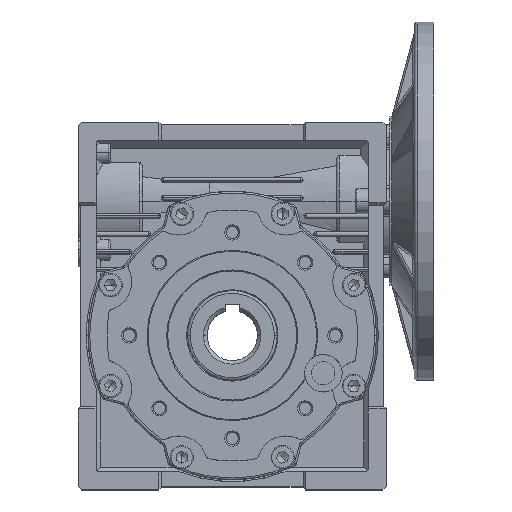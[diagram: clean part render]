
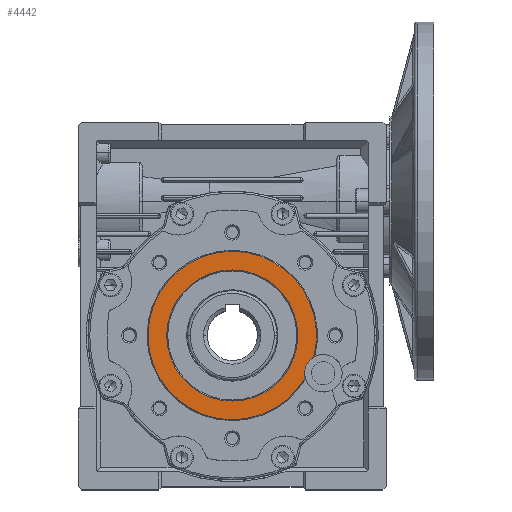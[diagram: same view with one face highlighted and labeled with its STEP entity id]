
A CAD part, top view. The second image highlights one B-rep face of the part: STEP entity #4442.
In plain terms, the highlighted planar face has unit normal (0, 0, 1).
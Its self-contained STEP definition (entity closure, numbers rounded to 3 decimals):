
#4442=ADVANCED_FACE('',(#9550,#9551),#9552,.T.);
#9550=FACE_BOUND('',#16139,.T.);
#9551=FACE_OUTER_BOUND('',#16140,.T.);
#9552=PLANE('',#16141);
#16139=EDGE_LOOP('',(#58976,#58977));
#16140=EDGE_LOOP('',(#58978,#58979,#58980,#58981,#58982));
#16141=AXIS2_PLACEMENT_3D('',#58983,#58984,#58985);
#58976=ORIENTED_EDGE('',*,*,#66455,.T.);
#58977=ORIENTED_EDGE('',*,*,#64924,.T.);
#58978=ORIENTED_EDGE('',*,*,#64828,.T.);
#58979=ORIENTED_EDGE('',*,*,#66590,.T.);
#58980=ORIENTED_EDGE('',*,*,#64932,.T.);
#58981=ORIENTED_EDGE('',*,*,#64937,.T.);
#58982=ORIENTED_EDGE('',*,*,#66449,.T.);
#58983=CARTESIAN_POINT('',(255.66,-38.654,244.658));
#58984=DIRECTION('',(0.0,0.,1.0));
#58985=DIRECTION('',(0.0,1.0,0.));
#64828=EDGE_CURVE('',#71881,#71878,#71882,.T.);
#64924=EDGE_CURVE('',#72057,#72054,#72058,.T.);
#64932=EDGE_CURVE('',#72069,#72067,#72070,.T.);
#64937=EDGE_CURVE('',#72067,#72075,#72078,.T.);
#66449=EDGE_CURVE('',#72075,#71881,#74355,.T.);
#66455=EDGE_CURVE('',#72054,#72057,#74361,.T.);
#66590=EDGE_CURVE('',#71878,#72069,#74549,.T.);
#71878=VERTEX_POINT('',#82614);
#71881=VERTEX_POINT('',#82618);
#71882=CIRCLE('',#82619,10.5);
#72054=VERTEX_POINT('',#83253);
#72057=VERTEX_POINT('',#83257);
#72058=CIRCLE('',#83258,36.577);
#72067=VERTEX_POINT('',#83270);
#72069=VERTEX_POINT('',#83273);
#72070=CIRCLE('',#83274,47.0);
#72075=VERTEX_POINT('',#83282);
#72078=CIRCLE('',#83286,47.0);
#74355=CIRCLE('',#86374,47.0);
#74361=CIRCLE('',#86380,36.577);
#74549=CIRCLE('',#86871,10.5);
#82614=CARTESIAN_POINT('',(296.772,-55.683,244.658));
#82618=CARTESIAN_POINT('',(296.293,-62.274,244.658));
#82619=AXIS2_PLACEMENT_3D('',#97389,#97390,#97391);
#83253=CARTESIAN_POINT('',(292.237,-38.654,244.658));
#83257=CARTESIAN_POINT('',(219.082,-38.654,244.658));
#83258=AXIS2_PLACEMENT_3D('',#97521,#97522,#97523);
#83270=CARTESIAN_POINT('',(255.66,8.346,244.658));
#83273=CARTESIAN_POINT('',(301.094,-50.684,244.658));
#83274=AXIS2_PLACEMENT_3D('',#97531,#97532,#97533);
#83282=CARTESIAN_POINT('',(255.66,-85.654,244.658));
#83286=AXIS2_PLACEMENT_3D('',#97538,#97539,#97540);
#86374=AXIS2_PLACEMENT_3D('',#99995,#99996,#99997);
#86380=AXIS2_PLACEMENT_3D('',#100007,#100008,#100009);
#86871=AXIS2_PLACEMENT_3D('',#100213,#100214,#100215);
#97389=CARTESIAN_POINT('',(306.473,-59.701,244.658));
#97390=DIRECTION('',(0.0,0.0,-1.0));
#97391=DIRECTION('',(-0.924,0.383,0.0));
#97521=CARTESIAN_POINT('',(255.66,-38.654,244.658));
#97522=DIRECTION('',(0.0,0.,-1.0));
#97523=DIRECTION('',(0.0,-1.0,0.));
#97531=CARTESIAN_POINT('',(255.66,-38.654,244.658));
#97532=DIRECTION('',(0.0,0.,1.0));
#97533=DIRECTION('',(0.0,1.0,0.));
#97538=CARTESIAN_POINT('',(255.66,-38.654,244.658));
#97539=DIRECTION('',(0.0,0.,1.0));
#97540=DIRECTION('',(0.0,1.0,0.));
#99995=CARTESIAN_POINT('',(255.66,-38.654,244.658));
#99996=DIRECTION('',(0.0,0.,1.0));
#99997=DIRECTION('',(0.0,1.0,0.));
#100007=CARTESIAN_POINT('',(255.66,-38.654,244.658));
#100008=DIRECTION('',(0.0,0.,-1.0));
#100009=DIRECTION('',(0.0,-1.0,0.));
#100213=CARTESIAN_POINT('',(306.473,-59.701,244.658));
#100214=DIRECTION('',(0.0,0.0,-1.0));
#100215=DIRECTION('',(-0.924,0.383,0.0));
